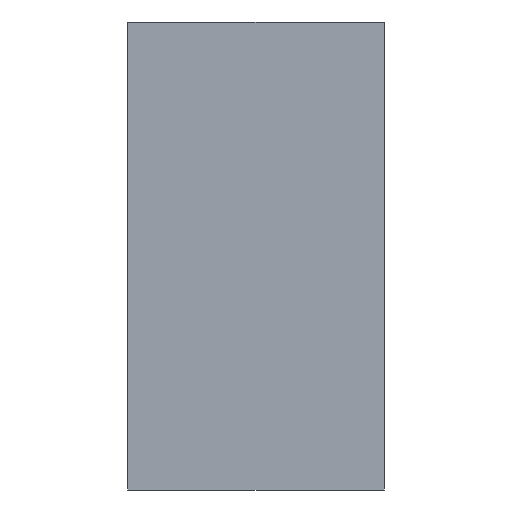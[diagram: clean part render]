
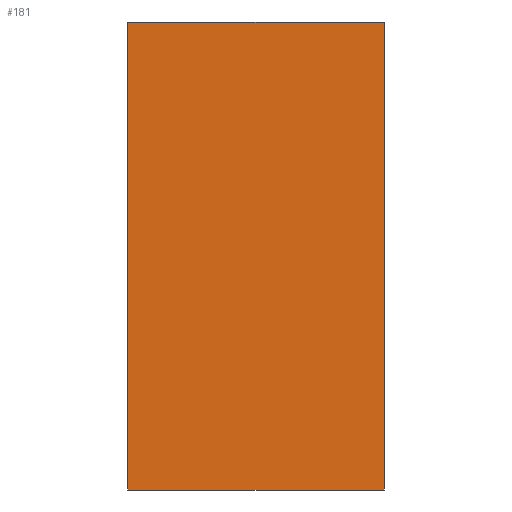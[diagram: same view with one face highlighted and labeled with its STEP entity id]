
A CAD part, front view. The second image highlights one B-rep face of the part: STEP entity #181.
In plain terms, the highlighted planar face has unit normal (0, -1, 0).
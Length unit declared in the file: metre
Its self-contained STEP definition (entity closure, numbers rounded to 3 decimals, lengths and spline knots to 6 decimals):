
#24=ORIENTED_EDGE('',*,*,#70,.F.);
#25=ORIENTED_EDGE('',*,*,#71,.F.);
#26=ORIENTED_EDGE('',*,*,#72,.T.);
#27=ORIENTED_EDGE('',*,*,#68,.T.);
#68=EDGE_CURVE('',#91,#90,#108,.T.);
#70=EDGE_CURVE('',#92,#90,#110,.T.);
#71=EDGE_CURVE('',#93,#92,#111,.T.);
#72=EDGE_CURVE('',#93,#91,#112,.T.);
#90=VERTEX_POINT('',#275);
#91=VERTEX_POINT('',#277);
#92=VERTEX_POINT('',#281);
#93=VERTEX_POINT('',#283);
#108=LINE('',#276,#132);
#110=LINE('',#280,#134);
#111=LINE('',#282,#135);
#112=LINE('',#284,#136);
#132=VECTOR('',#227,1.);
#134=VECTOR('',#231,1.);
#135=VECTOR('',#232,1.);
#136=VECTOR('',#233,1.);
#151=EDGE_LOOP('',(#24,#25,#26,#27));
#161=FACE_BOUND('',#151,.T.);
#171=PLANE('',#204);
#181=ADVANCED_FACE('',(#161),#171,.T.);
#204=AXIS2_PLACEMENT_3D('',#279,#229,#230);
#227=DIRECTION('',(1.,0.,0.));
#229=DIRECTION('',(0.,-1.,0.));
#230=DIRECTION('',(0.,0.,-1.));
#231=DIRECTION('',(0.,0.,-1.));
#232=DIRECTION('',(1.,0.,0.));
#233=DIRECTION('',(0.,0.,-1.));
#275=CARTESIAN_POINT('',(-0.035,-0.040005,0.005421));
#276=CARTESIAN_POINT('',(-0.037,-0.040005,0.005421));
#277=CARTESIAN_POINT('',(-0.037,-0.040005,0.005421));
#279=CARTESIAN_POINT('',(-0.037,-0.040005,0.007245));
#280=CARTESIAN_POINT('',(-0.035,-0.040005,0.007245));
#281=CARTESIAN_POINT('',(-0.035,-0.040005,0.00907));
#282=CARTESIAN_POINT('',(-0.037,-0.040005,0.00907));
#283=CARTESIAN_POINT('',(-0.037,-0.040005,0.00907));
#284=CARTESIAN_POINT('',(-0.037,-0.040005,0.007245));
